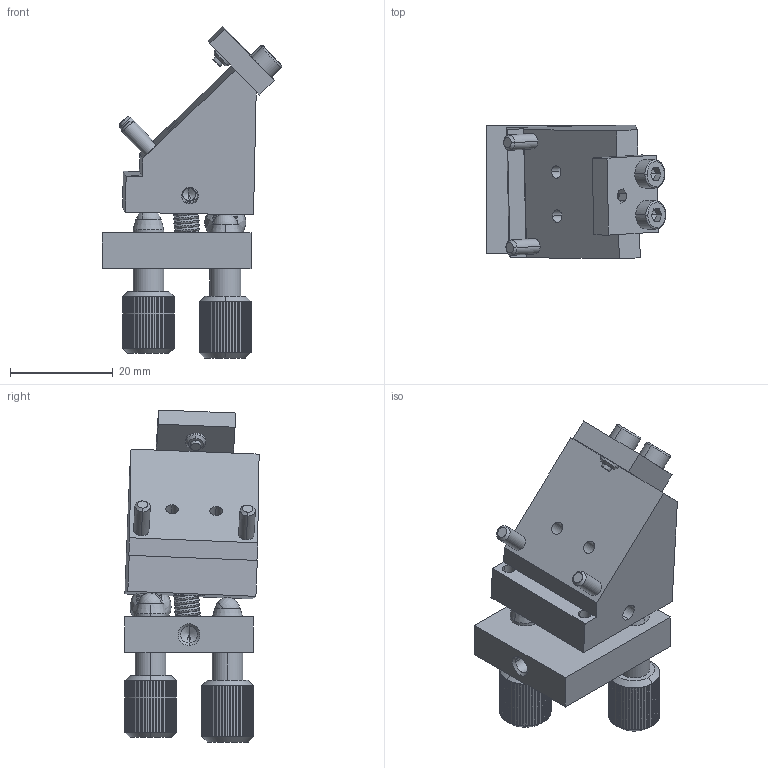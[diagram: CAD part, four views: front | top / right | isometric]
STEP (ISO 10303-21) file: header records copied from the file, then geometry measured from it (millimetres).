
FILE_DESCRIPTION (( 'STEP AP203' ), '1' );
FILE_NAME ('5OM111-45.STEP', '2011-06-28T07:08:04', ( 'Darius' ), ( '' ), 'SwSTEP 2.0', 'SolidWorks 2003240', '' );
FILE_SCHEMA (( 'CONFIG_CONTROL_DESIGN' ));
Products named in the file (1): 5OM111-45
Bounding box: 34.99 x 26.17 x 64.73 mm (x, y, z)
Volume: 19867.5 mm3; surface area: 8518.2 mm2
Topology: 1 solids, 6 shells, 1065 faces, 2593 edges, 1552 vertices
Faces by surface type: plane 805, bspline 131, cylinder 69, cone 60
Entity records: 41331 total; most frequent: CARTESIAN_POINT 17161, ORIENTED_EDGE 5110, DIRECTION 4749, EDGE_CURVE 2555, VECTOR 1643, LINE 1643, AXIS2_PLACEMENT_3D 1553, VERTEX_POINT 1552
